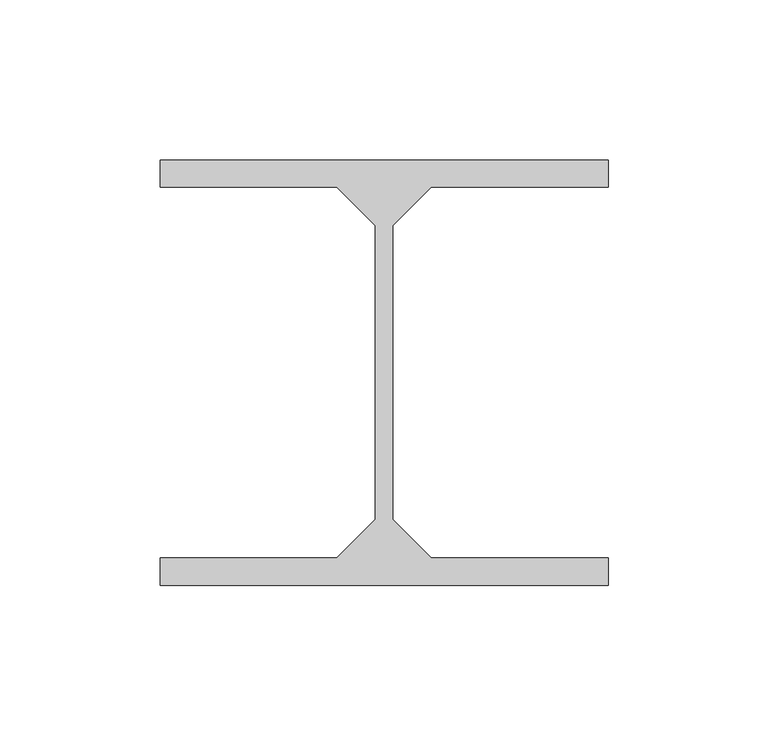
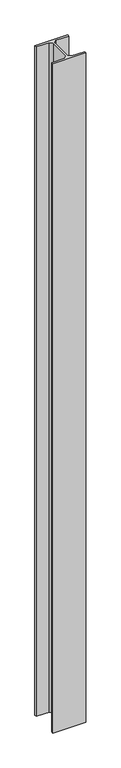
"""IFC4 building model written with IfcOpenShell, lengths in millimetres: beam geometry, Potelet 53632 : Potelet 53632."""

from ifc_helpers import new_model, si_unit, frame, origin, place, context, project, spatial, polyline, outline, extrude, source, transform, mapped, element, save


def beam_9335a4f9(model_context):
    return source(origin(), model_context, "Body", "SweptSolid", [
        extrude(outline(polyline([(3642.4999999, -34333.5), (3782.4999999, -34333.5), (3782.4999999, -34342.0), (3727.2499999, -34342.0), (3715.2499999, -34354.0), (3715.2499999, -34446.0), (3727.2499999, -34458.0), (3782.4999999, -34458.0), (3782.4999999, -34466.5), (3642.4999999, -34466.5), (3642.4999999, -34458.0), (3697.7499999, -34458.0), (3709.7499999, -34446.0), (3709.7499999, -34354.0), (3697.7499999, -34342.0), (3642.4999999, -34342.0), (3642.4999999, -34333.5)])), frame((0.0, 0.0, 7410.0), z_axis=(0.0, 0.0, 1.0), x_axis=(1.0, 0.0, 0.0)), (0.0, 0.0, 1.0), 3012.6213054),
    ])


if __name__ == "__main__":
    model = new_model("IFC4")
    model_context = context("Model", 3, world=origin())
    ifc_project = project(units=[si_unit("LENGTHUNIT", "METRE", prefix="MILLI")], contexts=[model_context])
    site = spatial("IfcSite", under=ifc_project)
    building = spatial("IfcBuilding", under=site)
    placement = place(None, origin())
    beam_shape = beam_9335a4f9(model_context)
    element("IfcBeam", 1, ObjectType="Potelet 53632 : Potelet 53632", at=placement, inside=building, context=model_context, shape_type="MappedRepresentation", body=[
        mapped(beam_shape, transform((0.0, 0.0, 0.0), x_axis=(1.0, 0.0, 0.0), y_axis=(0.0, 1.0, 0.0), z_axis=(0.0, 0.0, 1.0))),
    ])
    save(model, "model.ifc")
